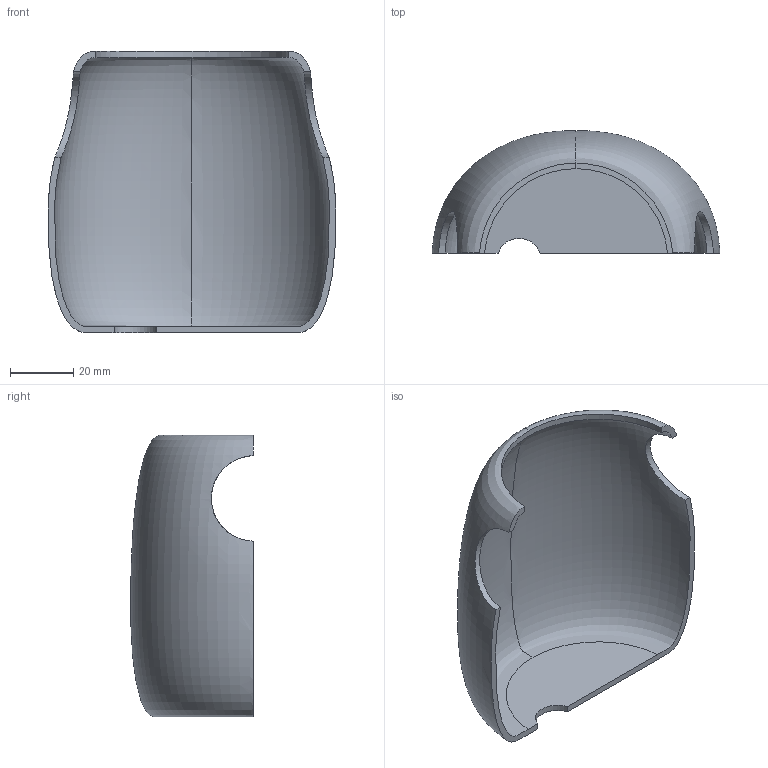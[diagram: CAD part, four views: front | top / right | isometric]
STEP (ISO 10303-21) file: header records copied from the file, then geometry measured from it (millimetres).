
FILE_DESCRIPTION(('Open CASCADE Model'),'2;1');
FILE_NAME('Open CASCADE Shape Model','2026-11-11T21:44:30',('Author'),( 'Open CASCADE'),'Open CASCADE STEP processor 8.0','build123d', 'Unknown');
FILE_SCHEMA(('AUTOMOTIVE_DESIGN { 1 0 10303 214 1 1 1 1 }'));
Products named in the file (1): SOLID
Bounding box: 90.8 x 38.72 x 89.01 mm (x, y, z)
Volume: 24916.2 mm3; surface area: 25679.9 mm2
Topology: 1 solids, 1 shells, 14 faces, 36 edges, 24 vertices
Faces by surface type: plane 6, cylinder 4, bspline 4
Entity records: 71413 total; most frequent: CARTESIAN_POINT 70848, B_SPLINE_CURVE_WITH_KNOTS 80, ORIENTED_EDGE 72, PCURVE 72, DEFINITIONAL_REPRESENTATION 72, DIRECTION 48, EDGE_CURVE 36, SURFACE_CURVE 36
